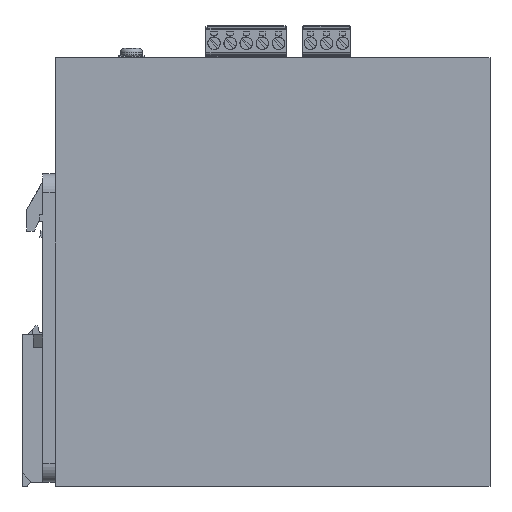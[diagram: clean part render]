
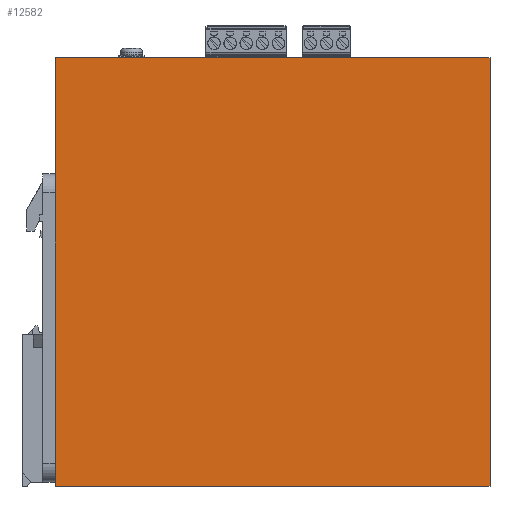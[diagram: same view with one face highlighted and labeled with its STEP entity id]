
A CAD part, left-side view. The second image highlights one B-rep face of the part: STEP entity #12582.
In plain terms, the highlighted planar face has unit normal (-1, 0, 0).
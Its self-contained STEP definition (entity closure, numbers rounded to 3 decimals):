
#5491=CARTESIAN_POINT('',(0.,-0.,135.));
#5492=VERTEX_POINT('',#5491);
#5493=CARTESIAN_POINT('',(0.,137.,135.));
#5494=VERTEX_POINT('',#5493);
#5495=CARTESIAN_POINT('',(0.,-0.,135.));
#5496=DIRECTION('',(0.,1.,0.));
#5497=VECTOR('',#5496,137.);
#5498=LINE('',#5495,#5497);
#5499=EDGE_CURVE('',#5492,#5494,#5498,.T.);
#12481=CARTESIAN_POINT('',(0.,137.,0.));
#12482=VERTEX_POINT('',#12481);
#12489=CARTESIAN_POINT('',(0.,137.,135.));
#12490=DIRECTION('',(0.,0.,-1.));
#12491=VECTOR('',#12490,135.);
#12492=LINE('',#12489,#12491);
#12493=EDGE_CURVE('',#5494,#12482,#12492,.T.);
#12506=CARTESIAN_POINT('',(0.,0.,0.));
#12507=VERTEX_POINT('',#12506);
#12508=CARTESIAN_POINT('',(0.,-0.,135.));
#12509=DIRECTION('',(0.,0.,-1.));
#12510=VECTOR('',#12509,135.);
#12511=LINE('',#12508,#12510);
#12512=EDGE_CURVE('',#5492,#12507,#12511,.T.);
#12566=CARTESIAN_POINT('',(0.,-0.002,135.));
#12567=DIRECTION('',(1.,-0.,0.));
#12568=DIRECTION('',(-0.,-1.,-0.));
#12569=AXIS2_PLACEMENT_3D('',#12566,#12567,#12568);
#12570=PLANE('',#12569);
#12571=ORIENTED_EDGE('',*,*,#12493,.T.);
#12572=CARTESIAN_POINT('',(0.,0.,0.));
#12573=DIRECTION('',(0.,1.,0.));
#12574=VECTOR('',#12573,137.);
#12575=LINE('',#12572,#12574);
#12576=EDGE_CURVE('',#12507,#12482,#12575,.T.);
#12577=ORIENTED_EDGE('',*,*,#12576,.F.);
#12578=ORIENTED_EDGE('',*,*,#12512,.F.);
#12579=ORIENTED_EDGE('',*,*,#5499,.T.);
#12580=EDGE_LOOP('',(#12571,#12577,#12578,#12579));
#12581=FACE_BOUND('',#12580,.T.);
#12582=ADVANCED_FACE('',(#12581),#12570,.F.);
